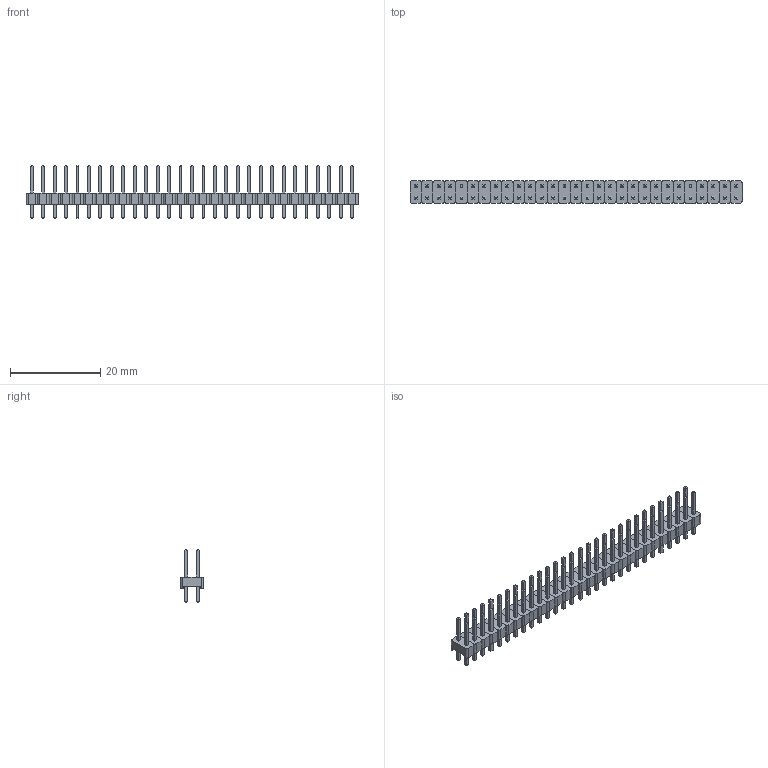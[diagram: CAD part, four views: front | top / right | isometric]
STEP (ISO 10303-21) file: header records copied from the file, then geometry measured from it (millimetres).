
FILE_DESCRIPTION(('FreeCAD Model'),'2;1');
FILE_NAME('Open CASCADE Shape Model','2022-04-06T16:03:02',( 'Engenharia Metaltex'),('Metaltex'), 'Open CASCADE STEP processor 7.5','FreeCAD','Unknown');
FILE_SCHEMA(('AUTOMOTIVE_DESIGN { 1 0 10303 214 1 1 1 1 }'));
Length unit declared in the file: millimetre
Products named in the file (117): BPDC; 29; Base028; Pino057; Pino058; 1; Base; Pino1; Pino2; 2; Base001; Pino003; Pino004; 3; Base002; Pino006; Pino005; 4; Base003; Pino008; Pino007; 5; Base004; Pino009; Pino010; 6; Base005; Pino012; Pino011; 7; Base006; Pino013; Pino014; 8; Base007; Pino015; Pino016; 9; Base008; Pino017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
Assembly tree (116 placements, depth 3):
  BPDC
    29
      Base028
      Pino057
      Pino058
    1
      Base
      Pino1
      Pino2
    2
      Base001
      Pino003
      Pino004
    3
      Base002
      Pino006
      Pino005
    4
      Base003
      Pino008
      Pino007
    5
      Base004
      Pino009
      Pino010
    6
      Base005
      Pino012
      Pino011
    7
      Base006
      Pino013
      Pino014
    8
      Base007
      Pino015
      Pino016
    9
      Base008
      Pino017
      Pino018
    10
      Base009
      Pino019
      Pino020
    11
      Base010
      Pino021
      Pino022
    12
      Base011
      Pino023
      Pino024
    13
      Base012
      Pino025
      Pino026
    14
      Base013
      Pino027
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Bounding box: 73.66 x 5.08 x 11.54 mm (x, y, z)
Volume: 1012.7 mm3; surface area: 3730.3 mm2
Topology: 87 solids, 87 shells, 1450 faces, 3364 edges, 2088 vertices
Faces by surface type: plane 1334, cylinder 116
Entity records: 87019 total; most frequent: CARTESIAN_POINT 14443, DIRECTION 13342, LINE 9628, VECTOR 9628, ORIENTED_EDGE 6728, PCURVE 6728, DEFINITIONAL_REPRESENTATION 6728, EDGE_CURVE 3364
